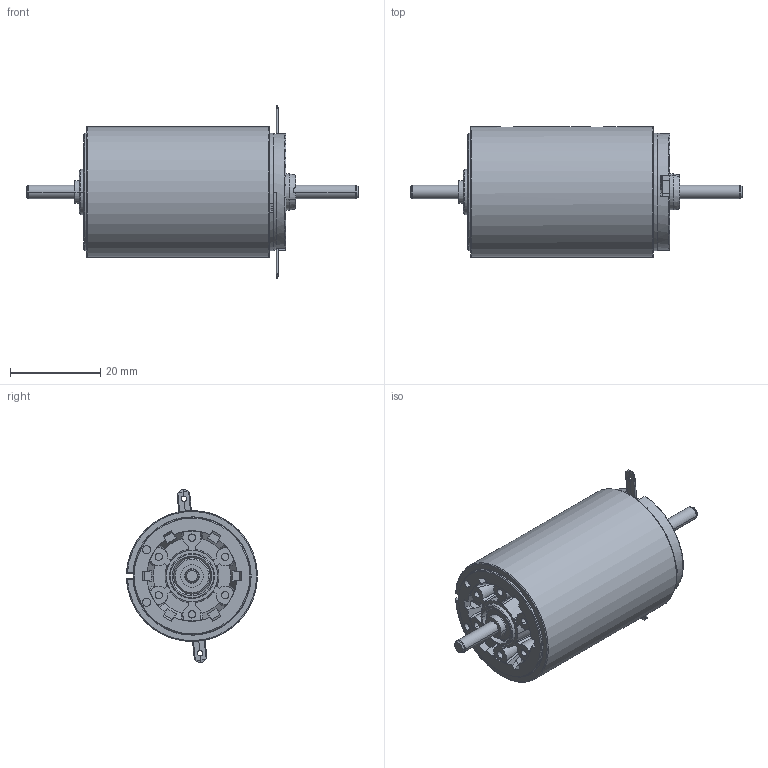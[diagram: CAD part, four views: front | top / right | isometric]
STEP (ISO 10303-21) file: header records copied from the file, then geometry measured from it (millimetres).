
FILE_DESCRIPTION((''),'2;1');
FILE_NAME('226801_REMAX29_22W_2WE','2016-11-08T',('mmagpetk'),(''),'CREO PARAMETRIC BY PTC INC, 2016050','CREO PARAMETRIC BY PTC INC, 2016050','');
FILE_SCHEMA(('CONFIG_CONTROL_DESIGN'));
Length unit declared in the file: millimetre
Products named in the file (1): 226801_REMAX29_22W_2WE
Bounding box: 73.5 x 28.99 x 38.32 mm (x, y, z)
Volume: 28363.2 mm3; surface area: 7429.2 mm2
Topology: 1 solids, 1 shells, 441 faces, 1199 edges, 756 vertices
Faces by surface type: plane 245, cylinder 134, cone 28, bspline 24, torus 10
Entity records: 23269 total; most frequent: CARTESIAN_POINT 5165, ORIENTED_EDGE 2398, DIRECTION 2132, PRESENTATION_STYLE_ASSIGNMENT 1641, STYLED_ITEM 1200, CURVE_STYLE 1199, EDGE_CURVE 1199, VERTEX_POINT 756
